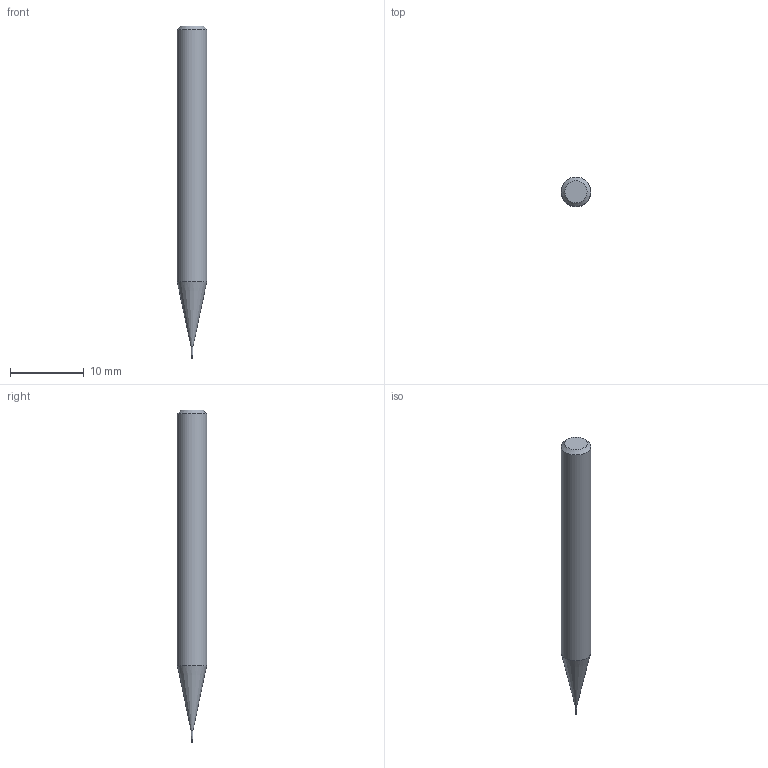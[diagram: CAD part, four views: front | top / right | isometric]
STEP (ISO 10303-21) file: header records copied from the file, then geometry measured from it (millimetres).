
FILE_DESCRIPTION((''),'2;1');
FILE_NAME('C:\Users\nsx150\AppData\Local\Temp\Mastercam 2021\YKS1SUSFZB\TEMP.step','2025-06-23T14:02:53',(''),(''),'STEP Write','Mastercam 2021 ... CNC Software, Inc.','');
FILE_SCHEMA(('AUTOMOTIVE_DESIGN'));
Length unit declared in the file: millimetre
Products named in the file (1): None
Bounding box: 4 x 4 x 45 mm (x, y, z)
Volume: 473.5 mm3; surface area: 505.4 mm2
Topology: 2 solids, 2 shells, 11 faces, 16 edges, 9 vertices
Faces by surface type: plane 4, cylinder 3, cone 3, torus 1
Full cylindrical faces by diameter (mm): 0.192 x1, 0.2 x1, 4 x1
Entity records: 253 total; most frequent: DIRECTION 44, CARTESIAN_POINT 31, AXIS2_PLACEMENT_3D 22, ORIENTED_EDGE 18, EDGE_LOOP 18, STYLED_ITEM 14, ADVANCED_FACE 11, FACE_BOUND 11
